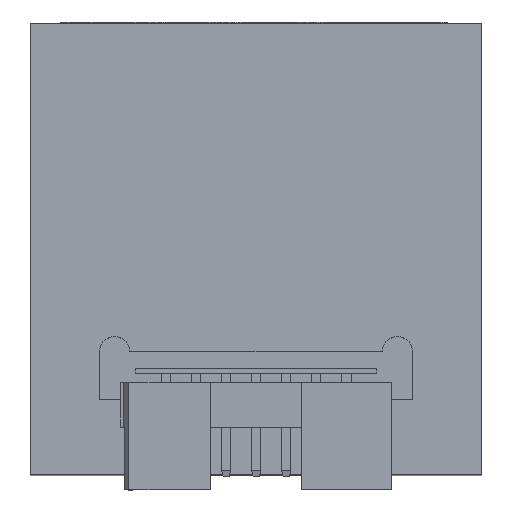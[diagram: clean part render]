
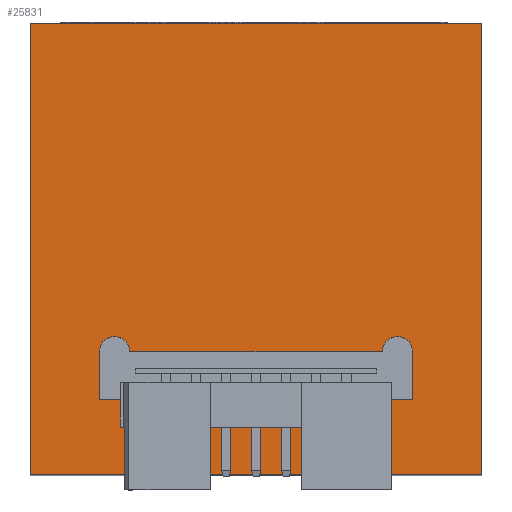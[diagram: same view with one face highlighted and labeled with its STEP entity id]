
A CAD part, top view. The second image highlights one B-rep face of the part: STEP entity #25831.
In plain terms, the highlighted planar face has unit normal (0, 0, 1).
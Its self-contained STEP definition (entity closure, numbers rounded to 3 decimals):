
#25343 = VERTEX_POINT ( 'NONE', #38021 ) ;
#25345 = EDGE_CURVE ( 'NONE', #25343, #25346, #38020, .T. ) ;
#25346 = VERTEX_POINT ( 'NONE', #38016 ) ;
#25823 = EDGE_LOOP ( 'NONE', ( #25824, #25886, #25888, #25889 ) ) ;
#25824 = ORIENTED_EDGE ( 'NONE', *, *, #25885, .T. ) ;
#25825 = VERTEX_POINT ( 'NONE', #39444 ) ;
#25827 = EDGE_CURVE ( 'NONE', #25343, #25854, #39443, .T. ) ;
#25831 = ADVANCED_FACE ( 'NONE', ( #39498, #39497 ), #39496, .F. ) ;
#25832 = EDGE_LOOP ( 'NONE', ( #25833, #25837, #25897, #25900, #25903, #25906 ) ) ;
#25833 = ORIENTED_EDGE ( 'NONE', *, *, #25834, .F. ) ;
#25834 = EDGE_CURVE ( 'NONE', #25835, #25836, #39493, .T. ) ;
#25835 = VERTEX_POINT ( 'NONE', #39487 ) ;
#25836 = VERTEX_POINT ( 'NONE', #39486 ) ;
#25837 = ORIENTED_EDGE ( 'NONE', *, *, #25838, .F. ) ;
#25838 = EDGE_CURVE ( 'NONE', #25839, #25835, #39485, .T. ) ;
#25839 = VERTEX_POINT ( 'NONE', #39481 ) ;
#25854 = VERTEX_POINT ( 'NONE', #39515 ) ;
#25885 = EDGE_CURVE ( 'NONE', #25854, #25825, #39532, .T. ) ;
#25886 = ORIENTED_EDGE ( 'NONE', *, *, #25887, .F. ) ;
#25887 = EDGE_CURVE ( 'NONE', #25346, #25825, #39593, .T. ) ;
#25888 = ORIENTED_EDGE ( 'NONE', *, *, #25345, .F. ) ;
#25889 = ORIENTED_EDGE ( 'NONE', *, *, #25827, .T. ) ;
#25897 = ORIENTED_EDGE ( 'NONE', *, *, #25898, .F. ) ;
#25898 = EDGE_CURVE ( 'NONE', #25899, #25839, #39574, .T. ) ;
#25899 = VERTEX_POINT ( 'NONE', #39569 ) ;
#25900 = ORIENTED_EDGE ( 'NONE', *, *, #25901, .F. ) ;
#25901 = EDGE_CURVE ( 'NONE', #25902, #25899, #39568, .T. ) ;
#25902 = VERTEX_POINT ( 'NONE', #39564 ) ;
#25903 = ORIENTED_EDGE ( 'NONE', *, *, #25904, .F. ) ;
#25904 = EDGE_CURVE ( 'NONE', #25905, #25902, #39625, .T. ) ;
#25905 = VERTEX_POINT ( 'NONE', #39620 ) ;
#25906 = ORIENTED_EDGE ( 'NONE', *, *, #25907, .F. ) ;
#25907 = EDGE_CURVE ( 'NONE', #25836, #25905, #39619, .T. ) ;
#38016 = CARTESIAN_POINT ( 'NONE',  ( 7.5, 15., 7.5 ) ) ;
#38017 = DIRECTION ( 'NONE',  ( 1., 0., 0. ) ) ;
#38018 = VECTOR ( 'NONE', #38017, 1000. ) ;
#38019 = CARTESIAN_POINT ( 'NONE',  ( -7.5, 15., 7.5 ) ) ;
#38020 = LINE ( 'NONE', #38019, #38018 ) ;
#38021 = CARTESIAN_POINT ( 'NONE',  ( -7.5, 15., 7.5 ) ) ;
#39440 = DIRECTION ( 'NONE',  ( 0., -1., 0. ) ) ;
#39441 = VECTOR ( 'NONE', #39440, 1000. ) ;
#39442 = CARTESIAN_POINT ( 'NONE',  ( -7.5, 15., 7.5 ) ) ;
#39443 = LINE ( 'NONE', #39442, #39441 ) ;
#39444 = CARTESIAN_POINT ( 'NONE',  ( 7.5, 0., 7.5 ) ) ;
#39481 = CARTESIAN_POINT ( 'NONE',  ( -5.2, 4.1, 7.5 ) ) ;
#39482 = DIRECTION ( 'NONE',  ( 0., -1., 0. ) ) ;
#39483 = VECTOR ( 'NONE', #39482, 1000. ) ;
#39484 = CARTESIAN_POINT ( 'NONE',  ( -5.2, 4.1, 7.5 ) ) ;
#39485 = LINE ( 'NONE', #39484, #39483 ) ;
#39486 = CARTESIAN_POINT ( 'NONE',  ( 5.2, 2.5, 7.5 ) ) ;
#39487 = CARTESIAN_POINT ( 'NONE',  ( -5.2, 2.5, 7.5 ) ) ;
#39488 = DIRECTION ( 'NONE',  ( 1., 0., 0. ) ) ;
#39489 = VECTOR ( 'NONE', #39488, 1000. ) ;
#39490 = CARTESIAN_POINT ( 'NONE',  ( -5.2, 2.5, 7.5 ) ) ;
#39491 = DIRECTION ( 'NONE',  ( -1., 0., 0. ) ) ;
#39492 = DIRECTION ( 'NONE',  ( 0., 0., -1. ) ) ;
#39493 = LINE ( 'NONE', #39490, #39489 ) ;
#39494 = CARTESIAN_POINT ( 'NONE',  ( -7.5, 15., 7.5 ) ) ;
#39495 = AXIS2_PLACEMENT_3D ( 'NONE', #39494, #39492, #39491 ) ;
#39496 = PLANE ( 'NONE',  #39495 ) ;
#39497 = FACE_OUTER_BOUND ( 'NONE', #25823, .T. ) ;
#39498 = FACE_BOUND ( 'NONE', #25832, .T. ) ;
#39515 = CARTESIAN_POINT ( 'NONE',  ( -7.5, 0., 7.5 ) ) ;
#39530 = VECTOR ( 'NONE', #39594, 1000. ) ;
#39531 = CARTESIAN_POINT ( 'NONE',  ( -7.5, 0., 7.5 ) ) ;
#39532 = LINE ( 'NONE', #39531, #39530 ) ;
#39564 = CARTESIAN_POINT ( 'NONE',  ( 4.2, 4.1, 7.5 ) ) ;
#39565 = DIRECTION ( 'NONE',  ( -1., 0., 0. ) ) ;
#39566 = VECTOR ( 'NONE', #39565, 1000. ) ;
#39567 = CARTESIAN_POINT ( 'NONE',  ( 4.2, 4.1, 7.5 ) ) ;
#39568 = LINE ( 'NONE', #39567, #39566 ) ;
#39569 = CARTESIAN_POINT ( 'NONE',  ( -4.2, 4.1, 7.5 ) ) ;
#39570 = DIRECTION ( 'NONE',  ( -1., 0., 0. ) ) ;
#39571 = DIRECTION ( 'NONE',  ( 0., 0., 1. ) ) ;
#39572 = CARTESIAN_POINT ( 'NONE',  ( -4.7, 4.1, 7.5 ) ) ;
#39573 = AXIS2_PLACEMENT_3D ( 'NONE', #39572, #39571, #39570 ) ;
#39574 = CIRCLE ( 'NONE', #39573, 0.5 ) ;
#39590 = DIRECTION ( 'NONE',  ( 0., -1., 0. ) ) ;
#39591 = VECTOR ( 'NONE', #39590, 1000. ) ;
#39592 = CARTESIAN_POINT ( 'NONE',  ( 7.5, 15., 7.5 ) ) ;
#39593 = LINE ( 'NONE', #39592, #39591 ) ;
#39594 = DIRECTION ( 'NONE',  ( 1., 0., 0. ) ) ;
#39616 = DIRECTION ( 'NONE',  ( 0., 1., 0. ) ) ;
#39617 = VECTOR ( 'NONE', #39616, 1000. ) ;
#39618 = CARTESIAN_POINT ( 'NONE',  ( 5.2, 2.5, 7.5 ) ) ;
#39619 = LINE ( 'NONE', #39618, #39617 ) ;
#39620 = CARTESIAN_POINT ( 'NONE',  ( 5.2, 4.1, 7.5 ) ) ;
#39621 = DIRECTION ( 'NONE',  ( -1., 0., 0. ) ) ;
#39622 = DIRECTION ( 'NONE',  ( 0., 0., 1. ) ) ;
#39623 = CARTESIAN_POINT ( 'NONE',  ( 4.7, 4.1, 7.5 ) ) ;
#39624 = AXIS2_PLACEMENT_3D ( 'NONE', #39623, #39622, #39621 ) ;
#39625 = CIRCLE ( 'NONE', #39624, 0.5 ) ;
